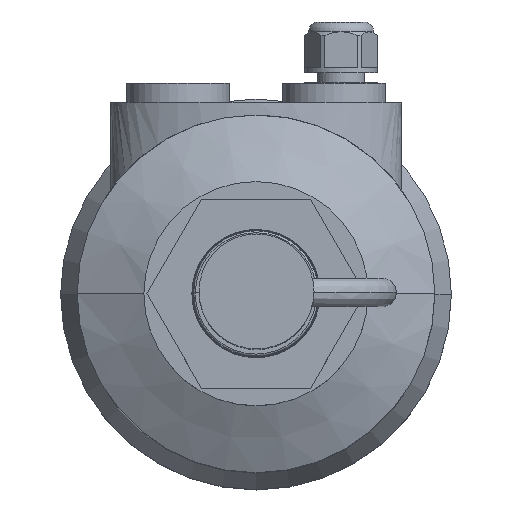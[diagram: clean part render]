
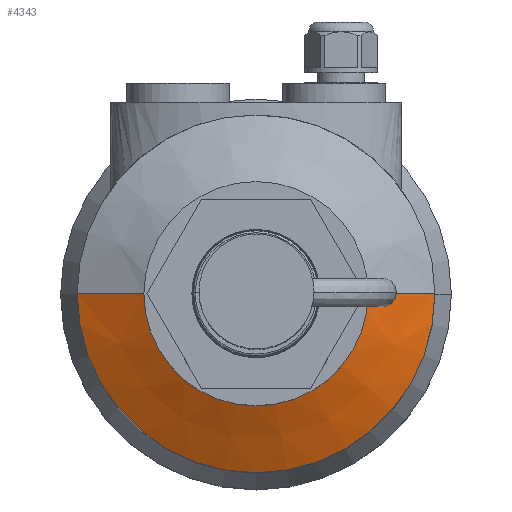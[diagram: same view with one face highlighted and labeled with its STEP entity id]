
A CAD part, top view. The second image highlights one B-rep face of the part: STEP entity #4343.
In plain terms, the highlighted conical face has half-angle 63.638 degrees and reference radius 37.949 mm.
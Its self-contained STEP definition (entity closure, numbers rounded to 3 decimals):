
#29=DIRECTION('',(0.896,0.,-0.444));
#30=VECTOR('',#29,19.429);
#31=CARTESIAN_POINT('',(29.245,0.,-17.598));
#32=LINE('',#31,#30);
#33=DIRECTION('',(-0.896,0.,-0.444));
#34=VECTOR('',#33,19.429);
#35=CARTESIAN_POINT('',(-29.245,0.,-17.598));
#36=LINE('',#35,#34);
#37=CARTESIAN_POINT('',(0.,0.,-17.598));
#38=DIRECTION('',(0.,0.,-1.));
#39=DIRECTION('',(1.,0.,0.));
#40=AXIS2_PLACEMENT_3D('',#37,#38,#39);
#154=CARTESIAN_POINT('',(0.,0.,-26.226));
#155=DIRECTION('',(0.,0.,-1.));
#156=DIRECTION('',(1.,0.,0.));
#157=AXIS2_PLACEMENT_3D('',#154,#155,#156);
#3260=CARTESIAN_POINT('',(29.245,0.,-17.598));
#3262=VERTEX_POINT('',#3260);
#3263=CARTESIAN_POINT('',(46.653,0.,-26.226));
#3264=VERTEX_POINT('',#3263);
#3272=CARTESIAN_POINT('',(-29.245,0.,-17.598));
#3274=VERTEX_POINT('',#3272);
#3275=CARTESIAN_POINT('',(-46.653,0.,-26.226));
#3276=VERTEX_POINT('',#3275);
#4329=CARTESIAN_POINT('',(0.,0.,-21.912));
#4330=DIRECTION('',(0.,0.,-1.));
#4331=DIRECTION('',(1.,0.,0.));
#4332=AXIS2_PLACEMENT_3D('',#4329,#4330,#4331);
#4333=CONICAL_SURFACE('',#4332,37.949,63.638);
#4335=ORIENTED_EDGE('',*,*,#4334,.T.);
#4337=ORIENTED_EDGE('',*,*,#4336,.T.);
#4339=ORIENTED_EDGE('',*,*,#4338,.F.);
#4340=ORIENTED_EDGE('',*,*,#4322,.F.);
#4341=EDGE_LOOP('',(#4335,#4337,#4339,#4340));
#4342=FACE_OUTER_BOUND('',#4341,.F.);
#4343=ADVANCED_FACE('',(#4342),#4333,.T.);
#41=CIRCLE('',#40,29.245);
#158=CIRCLE('',#157,46.653);
#4322=EDGE_CURVE('',#3262,#3274,#41,.T.);
#4334=EDGE_CURVE('',#3262,#3264,#32,.T.);
#4336=EDGE_CURVE('',#3264,#3276,#158,.T.);
#4338=EDGE_CURVE('',#3274,#3276,#36,.T.);
